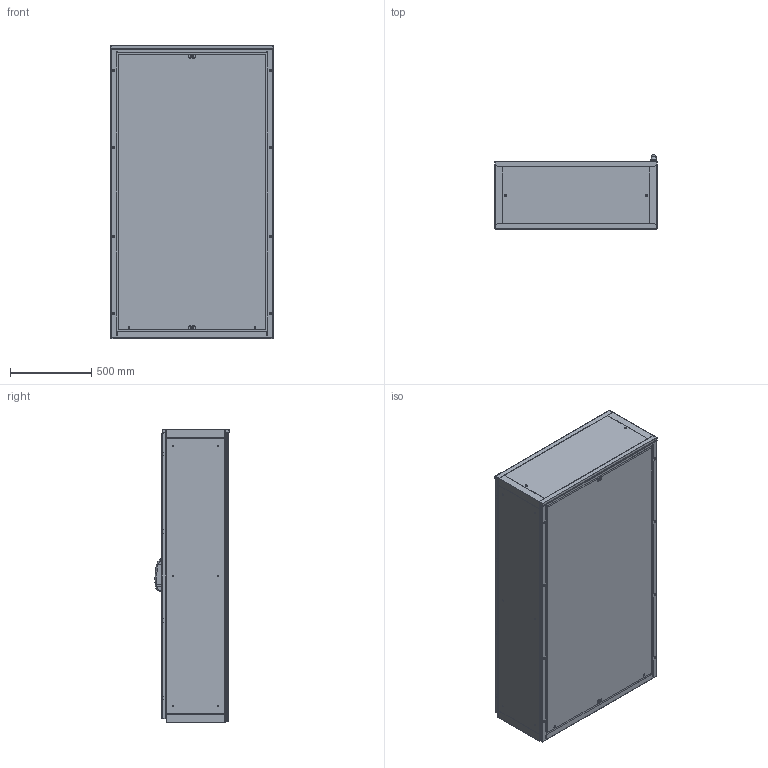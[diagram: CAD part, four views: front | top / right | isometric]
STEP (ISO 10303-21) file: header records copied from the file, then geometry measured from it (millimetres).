
FILE_DESCRIPTION (( 'STEP AP203' ), '1' );
FILE_NAME ('EMOX101804PR.STEP', '2025-06-03T09:31:40', ( '' ), ( '' ), 'SwSTEP 2.0', 'SolidWorks 2022', '' );
FILE_SCHEMA (( 'CONFIG_CONTROL_DESIGN' ));
Length unit declared in the file: millimetre
Products named in the file (9): AR_EMOX_Retro_singolo_1000x1800; AR_EMOX_struttura_1000x1800x0400; AR_EMOX_Tegolino_1000x0050; AR_EMOX_Porta_singola_2.0_1000x1800_ANT; AR_EMOX_Piastra_frontale_3.0_1000x1800; EMOX101804PR; AR_ENUX_nuova_maniglia_mesan; AR_EMOX_montaggio_porta_singlola_2.0_1000x1800_ANT_DX; AR_EMOX_Tegolino_1000x0100
Assembly tree (9 placements, depth 3):
  EMOX101804PR
    AR_EMOX_struttura_1000x1800x0400
    AR_EMOX_montaggio_porta_singlola_2.0_1000x1800_ANT_DX
      AR_EMOX_Porta_singola_2.0_1000x1800_ANT
      AR_ENUX_nuova_maniglia_mesan
    AR_EMOX_Retro_singolo_1000x1800
    AR_EMOX_Tegolino_1000x0050  x2
    AR_EMOX_Tegolino_1000x0100
    AR_EMOX_Piastra_frontale_3.0_1000x1800
Bounding box: 1000 x 456.5 x 1809 mm (x, y, z)
Volume: 17081136.3 mm3; surface area: 18551116.8 mm2
Topology: 8 solids, 8 shells, 2349 faces, 6555 edges, 4216 vertices
Faces by surface type: plane 1221, cylinder 993, cone 52, torus 38, bspline 25, sphere 20
Entity records: 79721 total; most frequent: CARTESIAN_POINT 16541, DIRECTION 12984, ORIENTED_EDGE 12766, EDGE_CURVE 6383, AXIS2_PLACEMENT_3D 4398, VECTOR 4188, LINE 4188, VERTEX_POINT 4136
